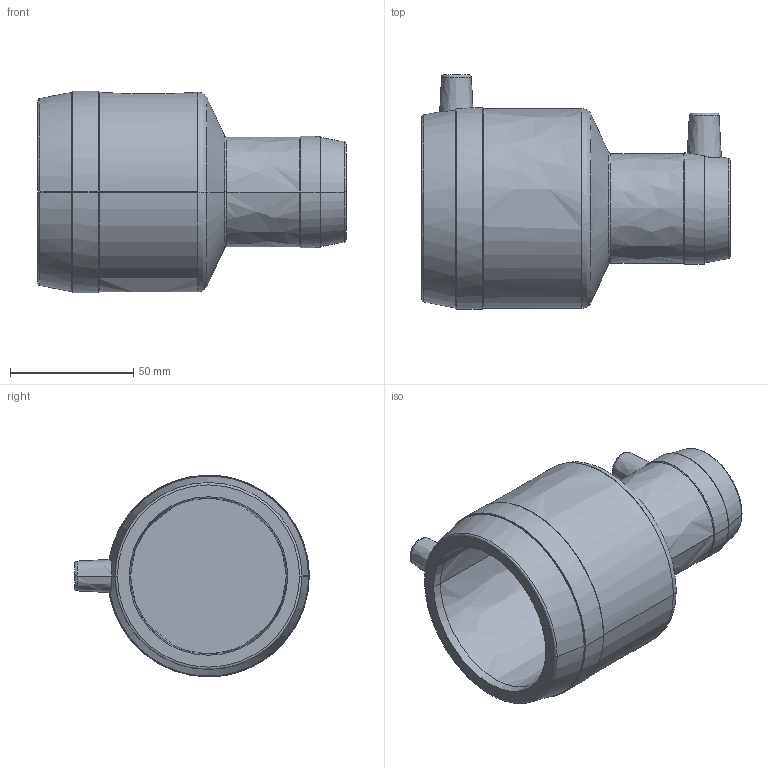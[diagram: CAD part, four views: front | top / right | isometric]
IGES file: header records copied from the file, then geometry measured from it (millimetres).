
Start section:  PTC IGES file: mr-stopp_mertik_d63-32_01.igs
Global section: file name: mr-stopp_mertik_d63-32_01.igs; native system: Pro/ENGINEER by Parametric Technology Corporation; preprocessor: 2011490; author: mtunjic; organization: Unknown; date: 20130819.085947; units: millimetre
Bounding box: 125 x 95.15 x 81.8 mm (x, y, z)
Surface area: 55594.3 mm2 (no closed solid volume)
Topology: 0 solids, 0 shells, 208 faces, 1026 edges, 1026 vertices
Faces by surface type: bspline 208
